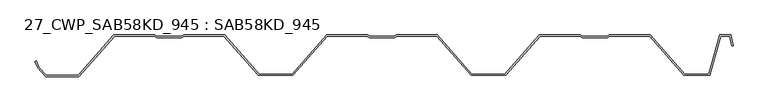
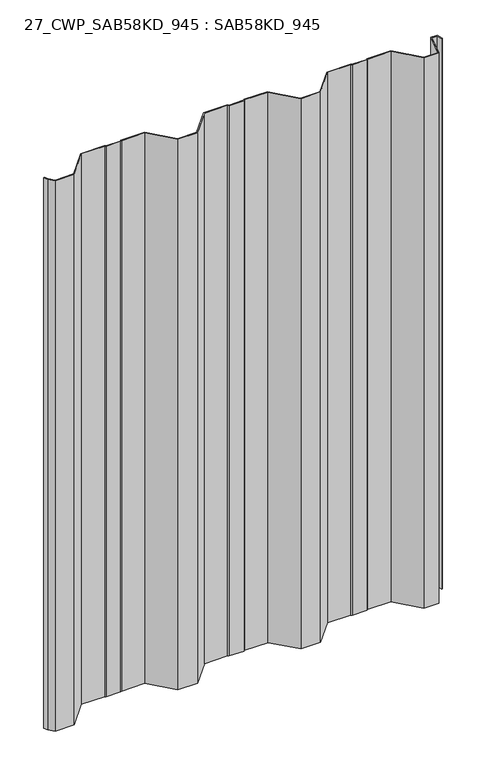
"""IFC4 building model written with IfcOpenShell, lengths in millimetres: plate geometry, 27_CWP_SAB58KD_945 : SAB58KD_945."""

from ifc_helpers import new_model, si_unit, origin, origin_with_axes, place, context, project, spatial, polyline, outline, extrude, source, transform, mapped, element, save


def plate_27_cwp_sab58kd_945_sab58kd_945_5d1eec96(model_context):
    return source(origin(), model_context, "Body", "SweptSolid", [
        extrude(outline(polyline([(173.0242959, -3.5334954), (113.2953391, -3.5334954), (61.8851184, -62.0), (10.5783775, -62.0), (-40.8318433, -3.5334954), (-100.5597403, -3.5334954), (-103.5838698, -5.5495818), (-141.4870188, -5.5495818), (-144.5111484, -3.5334954), (-204.2353908, -3.5334954), (-257.4090631, -64.0), (-306.9472237, -64.0), (-318.7617014, -50.7877362), (-323.0388969, -41.2315811), (-321.213408, -40.4145189), (-317.0633625, -49.6865944), (-306.0526486, -62.0), (-258.313609, -62.0), (-205.1399367, -1.5334954), (-143.9055971, -1.5334954), (-140.8814675, -3.5495818), (-104.1894211, -3.5495818), (-101.1652915, -1.5334954), (-39.927243, -1.5334954), (11.4829777, -60.0), (60.9805181, -60.0), (112.3907389, -1.5334954), (173.6298472, -1.5334954), (176.6539768, -3.5495818), (213.3460232, -3.5495818), (216.3701528, -1.5334954), (277.6082013, -1.5334954), (329.018422, -60.0), (378.5159625, -60.0), (429.9261832, -1.5334954), (491.1634496, -1.5334954), (494.1875792, -3.5495818), (530.8796256, -3.5495818), (533.9037552, -1.5334954), (595.1413472, -1.5334954), (646.5516972, -60.0), (682.6408305, -60.0), (699.1607908, -1.5334954), (715.4484794, -1.5334954), (718.9822575, -17.436214), (717.0298792, -17.8700563), (713.8441205, -3.5334954), (700.6739863, -3.5334954), (684.154026, -62.0), (645.6470985, -62.0), (594.2367485, -3.5334954), (534.5093064, -3.5334954), (531.4851769, -5.5495818), (493.5820279, -5.5495818), (490.5578983, -3.5334954), (430.8307834, -3.5334954), (379.4205627, -62.0), (328.1138218, -62.0), (276.7036011, -3.5334954), (216.9757041, -3.5334954), (213.9515745, -5.5495818), (176.0484255, -5.5495818), (173.0242959, -3.5334954)])), origin_with_axes(), (0.0, 0.0, 1.0), 1500.0),
    ])


if __name__ == "__main__":
    model = new_model("IFC4")
    model_context = context("Model", 3, world=origin())
    ifc_project = project(units=[si_unit("LENGTHUNIT", "METRE", prefix="MILLI")], contexts=[model_context])
    site = spatial("IfcSite", under=ifc_project)
    building = spatial("IfcBuilding", under=site)
    placement = place(None, origin())
    plate_27_cwp_sab58kd_945_sab58kd_945_shape = plate_27_cwp_sab58kd_945_sab58kd_945_5d1eec96(model_context)
    element("IfcPlate", 1, ObjectType="27_CWP_SAB58KD_945 : SAB58KD_945", at=placement, inside=building, context=model_context, shape_type="MappedRepresentation", body=[
        mapped(plate_27_cwp_sab58kd_945_sab58kd_945_shape, transform((0.0, 0.0, 0.0), x_axis=(1.0, 0.0, 0.0), y_axis=(0.0, 1.0, 0.0), z_axis=(0.0, 0.0, 1.0))),
    ])
    save(model, "model.ifc")
